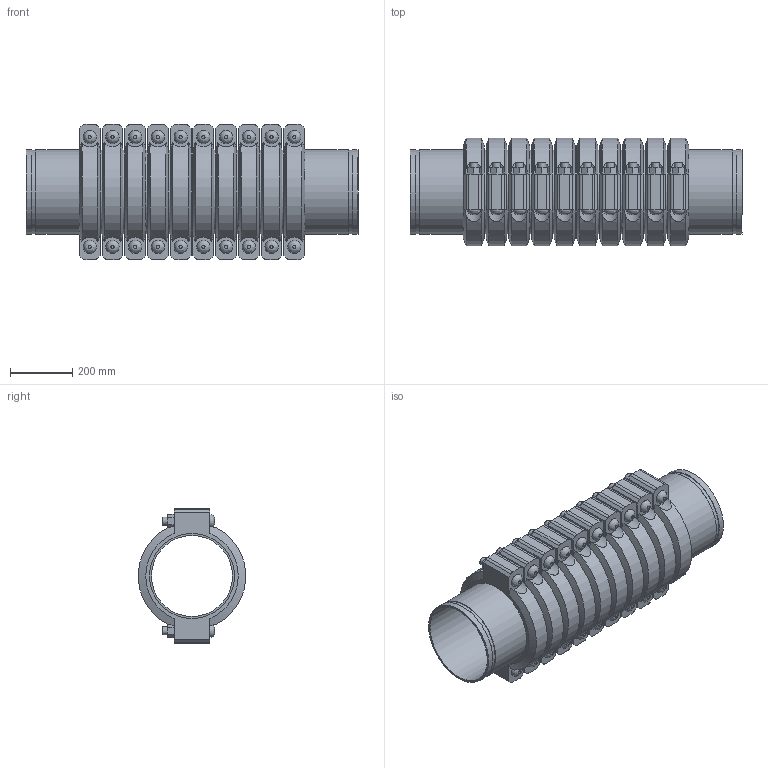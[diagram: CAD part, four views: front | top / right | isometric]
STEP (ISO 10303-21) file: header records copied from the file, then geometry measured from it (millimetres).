
FILE_DESCRIPTION(/* description */ ('VIC SS EXPANSION JOINT 10 COUPLINGS NEUTRAL STYLE 155P (OGS) (POTABLE WATER) ','CAx-IF Rec.Pracs.---Representation and Presentation of Product Manufacturing Information (PMI)---4.0---2014-10-13'),/* implementation_level */ '2;1');
FILE_NAME(/* name */ 'C:\Users\kkamble\AppData\Roaming\Autodesk\ApplicationPlugins\Victaulic.Temp\A116\Victaulic_SS_Expansion Joint_Neutral_10 Couplings_Style 155P (OGS)-Potable Water_10 Coup_Neut_10 (250).stp',/* time_stamp */ '2021-07-16T16:27:28+06:00',/* author */ ('kkamble'),/* organization */ ('Victaulic'),/* preprocessor_version */ 'ST-DEVELOPER v17.2',/* originating_system */ 'Autodesk Inventor 2019',/* authorisation */ '');
FILE_SCHEMA (('AP242_MANAGED_MODEL_BASED_3D_ENGINEERING_MIM_LF { 1 0 10303 442 1 1 4 }'));
Length unit declared in the file: inch
Products named in the file (4): 155P-10.0; Nipple-10.0; Nipple-10.0_1; 077-10.0
Assembly tree (21 placements, depth 2):
  155P-10.0
    Nipple-10.0  x2
    Nipple-10.0_1  x9
    077-10.0  x10
Bounding box: 1066.8 x 344.9 x 435.1 mm (x, y, z)
Volume: 34281871.4 mm3; surface area: 4738692.4 mm2
Topology: 21 solids, 41 shells, 742 faces, 1780 edges, 1244 vertices
Faces by surface type: plane 426, cylinder 256, cone 40, bspline 20
Full cylindrical faces by diameter (mm): 25.4 x40, 27.432 x20, 260.35 x11, 264.16 x10, 268.275 x22, 273.05 x53
Entity records: 3153 total; most frequent: CARTESIAN_POINT 685, DIRECTION 497, ORIENTED_EDGE 410, EDGE_CURVE 205, AXIS2_PLACEMENT_3D 204, VERTEX_POINT 146, EDGE_LOOP 111, CIRCLE 96
